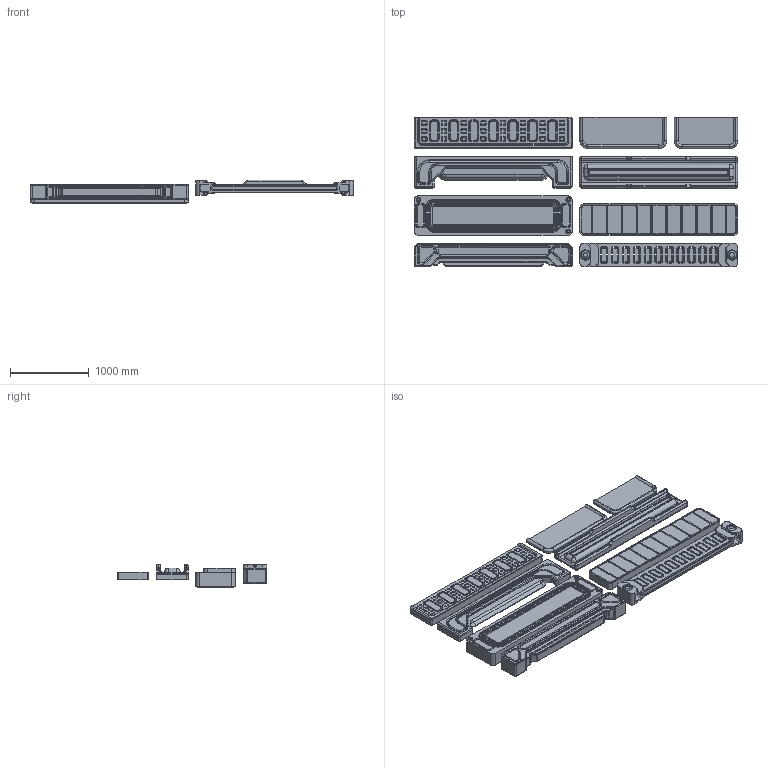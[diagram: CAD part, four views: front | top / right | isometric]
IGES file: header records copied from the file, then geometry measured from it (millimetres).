
Global section: file name: Shelfs v15; native system: unknown; preprocessor: unknown; author: unknown; organization: unknown; date: 20220706.174946; units: centimetre
Bounding box: 4100 x 1900 x 300 mm (x, y, z)
Volume: 638364353.4 mm3; surface area: 21801825.7 mm2
Topology: 53 solids, 53 shells, 3498 faces, 8260 edges, 4978 vertices
Faces by surface type: bspline 3498
